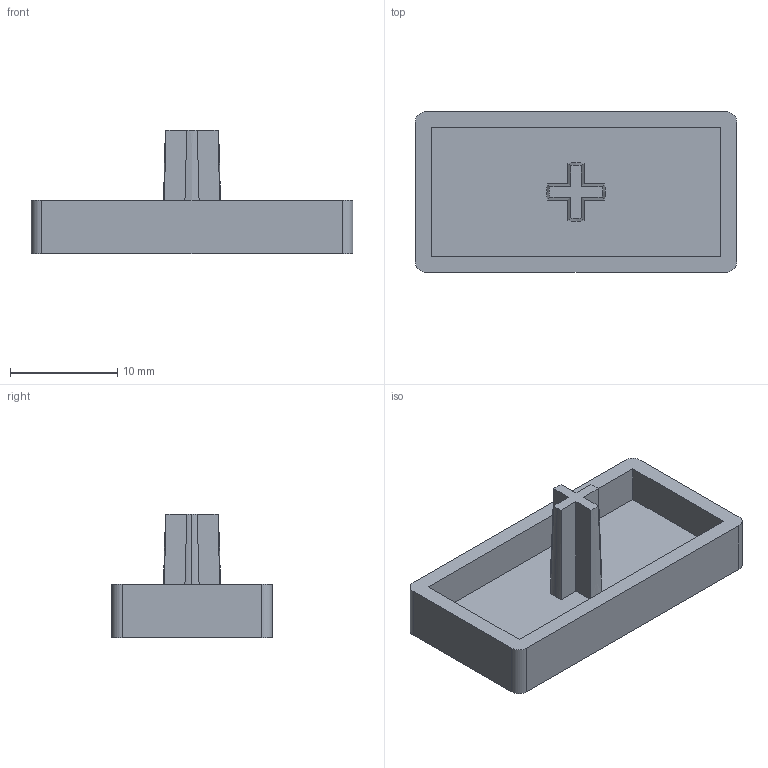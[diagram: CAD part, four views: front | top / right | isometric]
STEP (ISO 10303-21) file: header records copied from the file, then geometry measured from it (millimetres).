
FILE_DESCRIPTION (( 'STEP AP203' ), '1' );
FILE_NAME ('SEC1530-6.STEP', '2024-02-17T07:12:25', ( '' ), ( '' ), 'SwSTEP 2.0', 'SolidWorks 2022', '' );
FILE_SCHEMA (( 'CONFIG_CONTROL_DESIGN' ));
Length unit declared in the file: millimetre
Products named in the file (1): SEC1530-6
Bounding box: 30 x 15 x 11.5 mm (x, y, z)
Volume: 1225.1 mm3; surface area: 1811.4 mm2
Topology: 1 solids, 1 shells, 29 faces, 75 edges, 50 vertices
Faces by surface type: plane 20, cone 5, cylinder 4
Entity records: 996 total; most frequent: CARTESIAN_POINT 203, ORIENTED_EDGE 150, DIRECTION 145, EDGE_CURVE 75, VERTEX_POINT 50, LINE 49, VECTOR 49, AXIS2_PLACEMENT_3D 48
